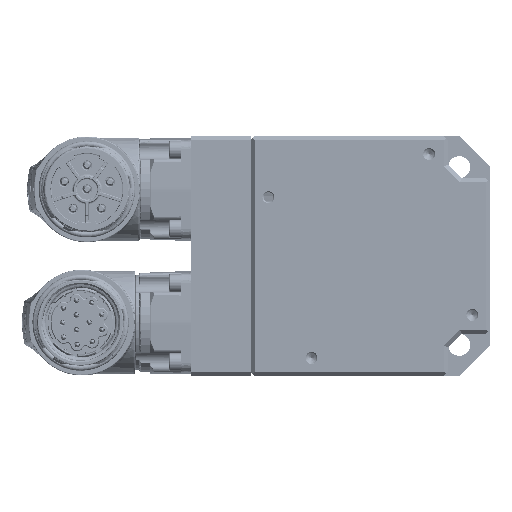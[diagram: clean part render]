
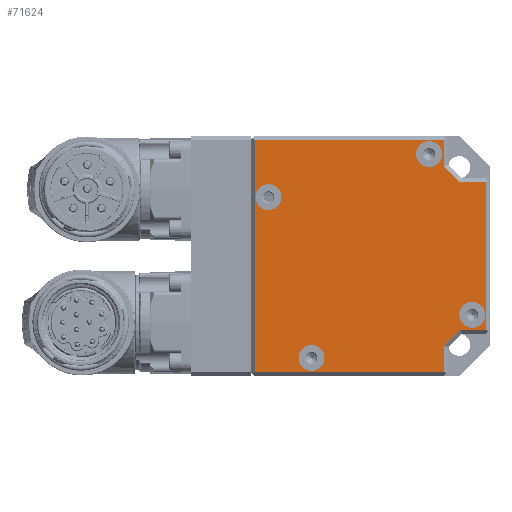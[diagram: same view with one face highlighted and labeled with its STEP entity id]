
A CAD part, left-side view. The second image highlights one B-rep face of the part: STEP entity #71624.
In plain terms, the highlighted planar face has unit normal (-1, 0, 0).
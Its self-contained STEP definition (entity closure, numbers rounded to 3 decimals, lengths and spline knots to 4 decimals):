
#7794=LINE('',#172938,#10589);
#7796=LINE('',#172942,#10591);
#7798=LINE('',#172946,#10593);
#7800=LINE('',#172950,#10595);
#7801=LINE('',#172953,#10596);
#7804=LINE('',#172958,#10599);
#7805=LINE('',#172962,#10600);
#7806=LINE('',#172964,#10601);
#7807=LINE('',#172965,#10602);
#7808=LINE('',#172966,#10603);
#10589=VECTOR('',#91600,0.3937);
#10591=VECTOR('',#91604,0.3937);
#10593=VECTOR('',#91608,0.3937);
#10595=VECTOR('',#91612,0.3937);
#10596=VECTOR('',#91615,0.3937);
#10599=VECTOR('',#91620,0.3937);
#10600=VECTOR('',#91623,0.3937);
#10601=VECTOR('',#91624,0.3937);
#10602=VECTOR('',#91625,0.3937);
#10603=VECTOR('',#91626,0.3937);
#13407=FACE_BOUND('',#20525,.T.);
#13408=FACE_BOUND('',#20526,.T.);
#13409=FACE_BOUND('',#20527,.T.);
#13410=FACE_BOUND('',#20528,.T.);
#15911=FACE_OUTER_BOUND('',#20524,.T.);
#20524=EDGE_LOOP('',(#54556,#54557,#54558,#54559,#54560,#54561,#54562,#54563,
#54564,#54565));
#20525=EDGE_LOOP('',(#54566));
#20526=EDGE_LOOP('',(#54567));
#20527=EDGE_LOOP('',(#54568));
#20528=EDGE_LOOP('',(#54569));
#24543=CIRCLE('',#77864,0.128);
#24544=CIRCLE('',#77865,0.128);
#24545=CIRCLE('',#77866,0.128);
#24546=CIRCLE('',#77867,0.128);
#29906=VERTEX_POINT('',#172934);
#29907=VERTEX_POINT('',#172936);
#29908=VERTEX_POINT('',#172940);
#29909=VERTEX_POINT('',#172944);
#29910=VERTEX_POINT('',#172948);
#29911=VERTEX_POINT('',#172952);
#29912=VERTEX_POINT('',#172956);
#29913=VERTEX_POINT('',#172960);
#29914=VERTEX_POINT('',#172961);
#29915=VERTEX_POINT('',#172963);
#29916=VERTEX_POINT('',#172967);
#29917=VERTEX_POINT('',#172969);
#29918=VERTEX_POINT('',#172971);
#29919=VERTEX_POINT('',#172973);
#38528=EDGE_CURVE('',#29907,#29906,#7794,.T.);
#38530=EDGE_CURVE('',#29906,#29908,#7796,.T.);
#38532=EDGE_CURVE('',#29909,#29907,#7798,.T.);
#38534=EDGE_CURVE('',#29910,#29909,#7800,.T.);
#38535=EDGE_CURVE('',#29911,#29910,#7801,.T.);
#38538=EDGE_CURVE('',#29912,#29911,#7804,.T.);
#38539=EDGE_CURVE('',#29913,#29914,#7805,.T.);
#38540=EDGE_CURVE('',#29915,#29913,#7806,.T.);
#38541=EDGE_CURVE('',#29908,#29915,#7807,.T.);
#38542=EDGE_CURVE('',#29914,#29912,#7808,.T.);
#38543=EDGE_CURVE('',#29916,#29916,#24543,.T.);
#38544=EDGE_CURVE('',#29917,#29917,#24544,.T.);
#38545=EDGE_CURVE('',#29918,#29918,#24545,.T.);
#38546=EDGE_CURVE('',#29919,#29919,#24546,.T.);
#54556=ORIENTED_EDGE('',*,*,#38539,.F.);
#54557=ORIENTED_EDGE('',*,*,#38540,.F.);
#54558=ORIENTED_EDGE('',*,*,#38541,.F.);
#54559=ORIENTED_EDGE('',*,*,#38530,.F.);
#54560=ORIENTED_EDGE('',*,*,#38528,.F.);
#54561=ORIENTED_EDGE('',*,*,#38532,.F.);
#54562=ORIENTED_EDGE('',*,*,#38534,.F.);
#54563=ORIENTED_EDGE('',*,*,#38535,.F.);
#54564=ORIENTED_EDGE('',*,*,#38538,.F.);
#54565=ORIENTED_EDGE('',*,*,#38542,.F.);
#54566=ORIENTED_EDGE('',*,*,#38543,.T.);
#54567=ORIENTED_EDGE('',*,*,#38544,.T.);
#54568=ORIENTED_EDGE('',*,*,#38545,.T.);
#54569=ORIENTED_EDGE('',*,*,#38546,.T.);
#64655=PLANE('',#77863);
#71624=ADVANCED_FACE('',(#15911,#13407,#13408,#13409,#13410),#64655,.T.);
#77863=AXIS2_PLACEMENT_3D('',#172959,#91621,#91622);
#77864=AXIS2_PLACEMENT_3D('',#172968,#91627,#91628);
#77865=AXIS2_PLACEMENT_3D('',#172970,#91629,#91630);
#77866=AXIS2_PLACEMENT_3D('',#172972,#91631,#91632);
#77867=AXIS2_PLACEMENT_3D('',#172974,#91633,#91634);
#91600=DIRECTION('',(0.,0.,1.));
#91604=DIRECTION('',(0.,-1.,0.));
#91608=DIRECTION('',(0.,1.,0.));
#91612=DIRECTION('',(0.,0.,-1.));
#91615=DIRECTION('',(0.,0.707,-0.707));
#91620=DIRECTION('',(0.,1.,0.));
#91621=DIRECTION('center_axis',(-1.,0.,0.));
#91622=DIRECTION('ref_axis',(0.,0.,1.));
#91623=DIRECTION('',(0.,-1.,0.));
#91624=DIRECTION('',(0.,-0.707,-0.707));
#91625=DIRECTION('',(0.,0.,-1.));
#91626=DIRECTION('',(0.,0.,-1.));
#91627=DIRECTION('center_axis',(1.,0.,0.));
#91628=DIRECTION('ref_axis',(0.,0.,
1.));
#91629=DIRECTION('center_axis',(1.,0.,0.));
#91630=DIRECTION('ref_axis',(0.,0.,
1.));
#91631=DIRECTION('center_axis',(1.,0.,0.));
#91632=DIRECTION('ref_axis',(0.,0.,
1.));
#91633=DIRECTION('center_axis',(1.,0.,0.));
#91634=DIRECTION('ref_axis',(0.,0.,
1.));
#172934=CARTESIAN_POINT('',(1.5345,5.999,1.1417));
#172936=CARTESIAN_POINT('',(1.5345,5.999,-1.1417));
#172938=CARTESIAN_POINT('',(1.5345,5.999,-0.5709));
#172940=CARTESIAN_POINT('',(1.5345,4.129,1.1417));
#172942=CARTESIAN_POINT('',(1.5345,5.455,1.1417));
#172944=CARTESIAN_POINT('',(1.5345,4.129,-1.1417));
#172946=CARTESIAN_POINT('',(1.5345,4.52,-1.1417));
#172948=CARTESIAN_POINT('',(1.5345,4.129,-0.8863));
#172950=CARTESIAN_POINT('',(1.5345,4.129,-0.4513));
#172952=CARTESIAN_POINT('',(1.5345,3.971,-0.7283));
#172953=CARTESIAN_POINT('',(1.5345,4.0297,-0.787));
#172956=CARTESIAN_POINT('',(1.5345,3.7156,-0.7283));
#172958=CARTESIAN_POINT('',(1.5345,4.3133,-0.7283));
#172959=CARTESIAN_POINT('Origin',(1.5345,4.911,0.));
#172960=CARTESIAN_POINT('',(1.5345,3.971,0.7283));
#172961=CARTESIAN_POINT('',(1.5345,3.7156,0.7283));
#172962=CARTESIAN_POINT('',(1.5345,4.4329,0.7283));
#172963=CARTESIAN_POINT('',(1.5345,4.129,0.8863));
#172964=CARTESIAN_POINT('',(1.5345,4.0971,0.8545));
#172965=CARTESIAN_POINT('',(1.5345,4.129,0.5709));
#172966=CARTESIAN_POINT('',(1.5345,3.7156,0.3642));
#172967=CARTESIAN_POINT('',(1.5345,4.2766,1.1338));
#172968=CARTESIAN_POINT('Origin',(1.5345,4.2766,1.0058));
#172969=CARTESIAN_POINT('',(1.5345,5.438,-0.8779));
#172970=CARTESIAN_POINT('Origin',(1.5345,5.438,-1.0058));
#172971=CARTESIAN_POINT('',(1.5345,5.8631,0.7087));
#172972=CARTESIAN_POINT('Origin',(1.5345,5.8631,0.5807));
#172973=CARTESIAN_POINT('',(1.5345,3.8515,-0.4528));
#172974=CARTESIAN_POINT('Origin',(1.5345,3.8515,-0.5807));
